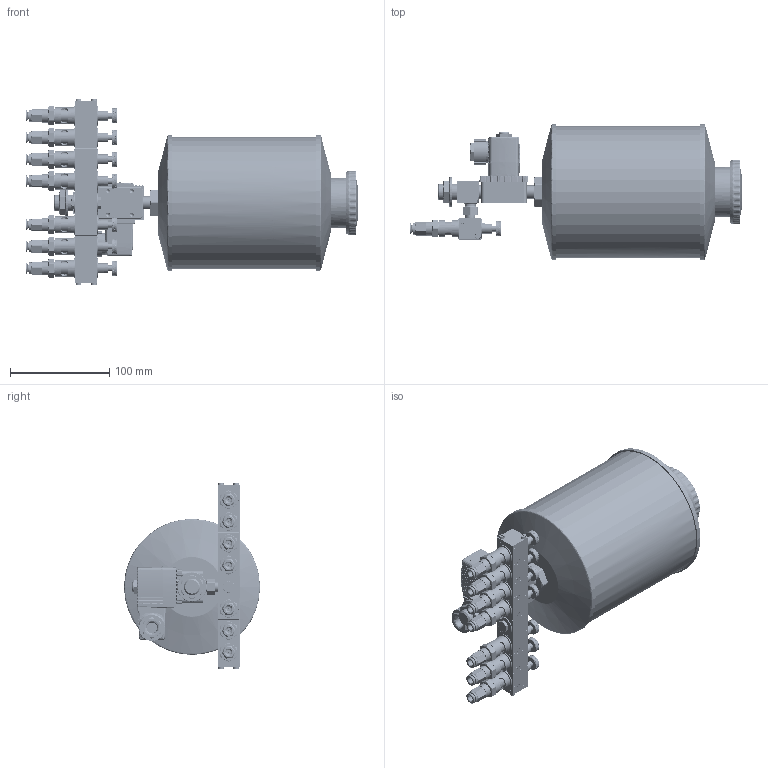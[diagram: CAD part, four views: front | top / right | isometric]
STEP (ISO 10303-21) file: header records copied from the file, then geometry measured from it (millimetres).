
FILE_DESCRIPTION (( 'STEP AP214' ), '1' );
FILE_NAME ('TRO_03_02_07_XXX.STEP', '2025-11-24T14:02:42', ( '' ), ( '' ), 'SwSTEP 2.0', 'SolidWorks 2022', '' );
FILE_SCHEMA (( 'AUTOMOTIVE_DESIGN' ));
Length unit declared in the file: millimetre
Products named in the file (20): OR 7.66X1.78; TRO_Magnetventil_ohne; TRO_03_02_07_XXX; TRO_1er_Mit_Verschr.SLDPRT; R200107-N1; 9911 0701 0601_6_1_8_HD; TRO_2er; DR6-C_HDX_25.07.16; TRO_Magnetventil_Stecker; TRO_2er_mittel_Mit_Verschr.SLDPRT; TRO_2er_mittel; TRO_Endplatte; TRO_Behaelter_02; DR6_NEU; TRO_Magnetventil_aktuell; OR 7.2X1.9_1; RIVOLUZIONE_0; TRO_Stutzen.SLDPRT
Assembly tree (22 placements, depth 4):
  TRO_03_02_07_XXX
    TRO_2er_mittel_Mit_Verschr.SLDPRT
      TRO_Stutzen.SLDPRT
        TRO_2er_mittel
      TRO_2er
      9911 0701 0601_6_1_8_HD  x2
        RIVOLUZIONE_0
        OR 7.66X1.78
        DR6-C_HDX_25.07.16
    TRO_1er_Mit_Verschr.SLDPRT  x5
      TRO_2er
      9911 0701 0601_6_1_8_HD
        RIVOLUZIONE_0
        OR 7.66X1.78
        DR6-C_HDX_25.07.16
    TRO_Magnetventil_aktuell
      TRO_Magnetventil_ohne
      TRO_Magnetventil_Stecker
    TRO_Endplatte  x2
    TRO_Behaelter_02
  R200107-N1
  TRO_2er_mittel
  DR6_NEU
  OR 7.2X1.9_1
Bounding box: 335.2 x 137.4 x 188.8 mm (x, y, z)
Volume: 535003.5 mm3; surface area: 351091.7 mm2
Topology: 43 solids, 43 shells, 8677 faces, 22421 edges, 13981 vertices
Faces by surface type: bspline 3385, plane 3025, cylinder 1501, cone 763, torus 3
Full cylindrical faces by diameter (mm): 1.5 x7, 2 x7, 3.5 x11, 3.8 x7, 4.2 x7, 4.5 x7, 5.5 x4, 5.9 x14, 6 x2, 6.2 x7, 6.25 x1, 6.3 x7, 6.75 x1, 7 x8, 7.2 x7, 7.4 x1, 8 x2, 8.3 x7, 8.4 x1, 8.5 x1, 8.6 x10, 8.8 x1, 9 x8, 9.2 x1, 9.5 x7, 9.728 x7, 9.8 x1, 9.9 x7, 10 x18, 10.1 x1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
Entity records: 314809 total; most frequent: CARTESIAN_POINT 173277, ORIENTED_EDGE 32212, DIRECTION 18072, EDGE_CURVE 16106, VERTEX_POINT 10219, B_SPLINE_CURVE_WITH_KNOTS 7740, EDGE_LOOP 6971, AXIS2_PLACEMENT_3D 6724
